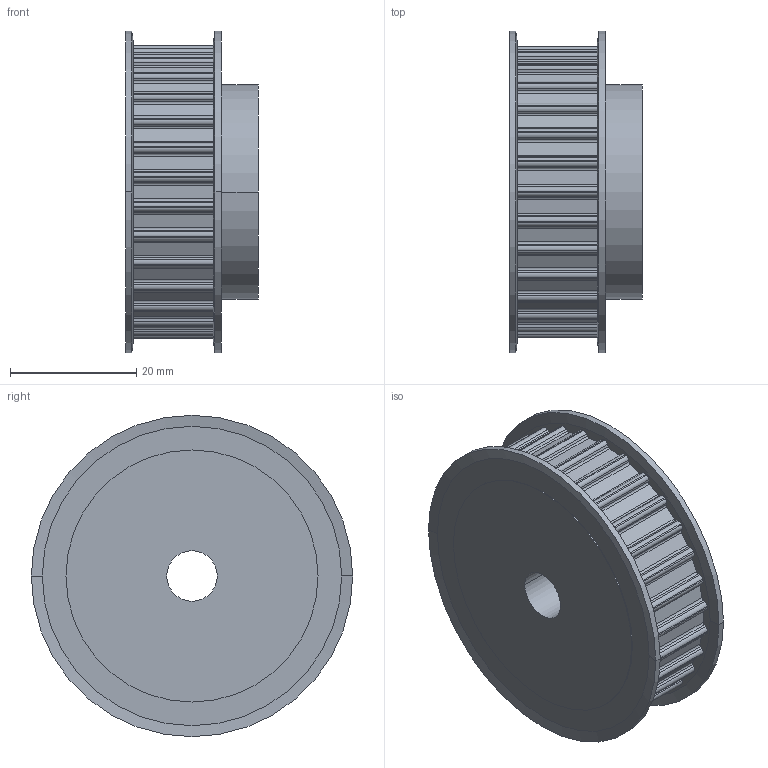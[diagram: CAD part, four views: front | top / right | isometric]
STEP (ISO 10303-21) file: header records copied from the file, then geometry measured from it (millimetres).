
FILE_DESCRIPTION( ( '' ), '1' );
FILE_NAME( 'C:/Users/Stangenbergd/Documents/CAD_Step/1/16623000.stp', '2021-10-19T09:34:23', ( '' ), ( '' ), ' ', ' ', ' ' );
FILE_SCHEMA( ( 'CONFIG_CONTROL_DESIGN' ) );
Length unit declared in the file: millimetre
Products named in the file (1): 1
Bounding box: 21.1 x 51 x 51 mm (x, y, z)
Volume: 29112.4 mm3; surface area: 8633.6 mm2
Topology: 1 solids, 1 shells, 267 faces, 772 edges, 512 vertices
Faces by surface type: cylinder 162, plane 97, cone 8
Entity records: 8962 total; most frequent: DIRECTION 1640, CARTESIAN_POINT 1552, ORIENTED_EDGE 1544, EDGE_CURVE 772, AXIS2_PLACEMENT_3D 600, VERTEX_POINT 512, LINE 440, VECTOR 440
